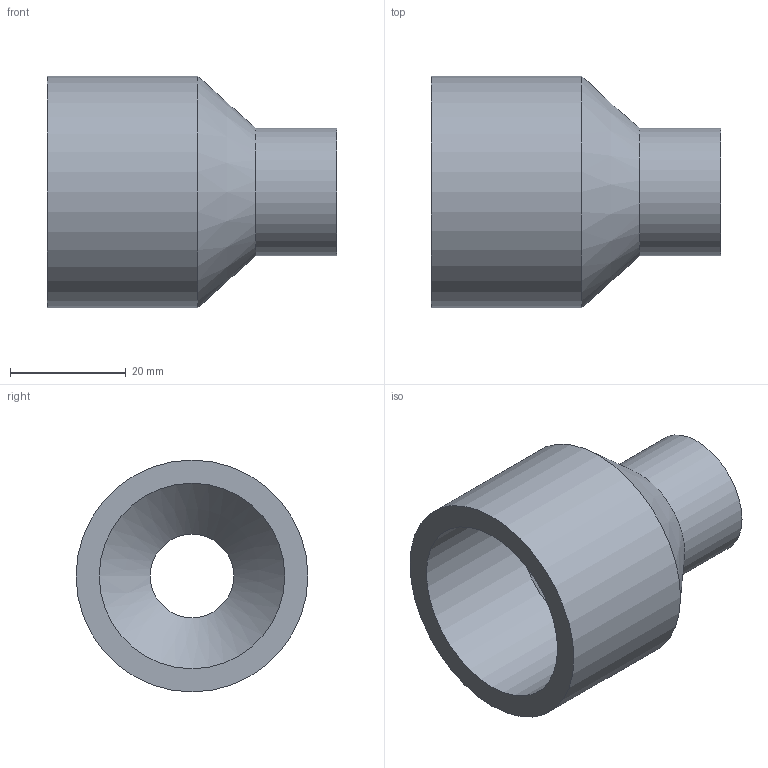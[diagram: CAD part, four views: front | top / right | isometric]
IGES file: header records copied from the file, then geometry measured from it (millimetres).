
Global section: file name: 050200040016.ipt; native system: Autodesk Inventor 2015; preprocessor: unknown; author: KIM; date: 20171207.164146; units: millimetre
Bounding box: 50 x 40 x 40 mm (x, y, z)
Volume: 20500.5 mm3; surface area: 10272.5 mm2
Topology: 1 solids, 1 shells, 10 faces, 23 edges, 16 vertices
Faces by surface type: revolution 4, plane 3, cylinder 2, cone 1
Full cylindrical faces by diameter (mm): 22 x1, 40 x1
